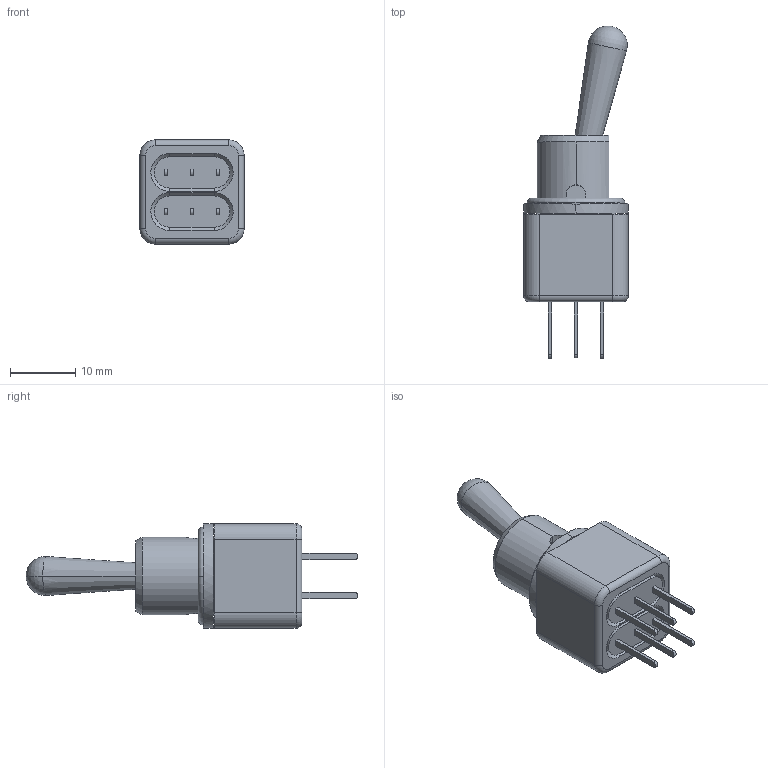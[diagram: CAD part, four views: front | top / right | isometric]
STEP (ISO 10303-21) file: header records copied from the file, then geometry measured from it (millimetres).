
FILE_DESCRIPTION((''),'2;1');
FILE_NAME('12246X778','2010-05-10T',('francis'),(''),'PRO/ENGINEER BY PARAMETRIC TECHNOLOGY CORPORATION, 2009440','PRO/ENGINEER BY PARAMETRIC TECHNOLOGY CORPORATION, 2009440','');
FILE_SCHEMA(('CONFIG_CONTROL_DESIGN'));
Length unit declared in the file: millimetre
Products named in the file (1): 12246X778
Bounding box: 16 x 50.89 x 16 mm (x, y, z)
Volume: 2629.9 mm3; surface area: 5362.1 mm2
Topology: 3 solids, 3 shells, 628 faces, 1699 edges, 1101 vertices
Faces by surface type: plane 455, cylinder 118, cone 29, torus 14, sphere 12
Entity records: 20014 total; most frequent: CARTESIAN_POINT 4026, ORIENTED_EDGE 3386, DIRECTION 3212, EDGE_CURVE 1693, VECTOR 1326, LINE 1326, VERTEX_POINT 1101, AXIS2_PLACEMENT_3D 943
